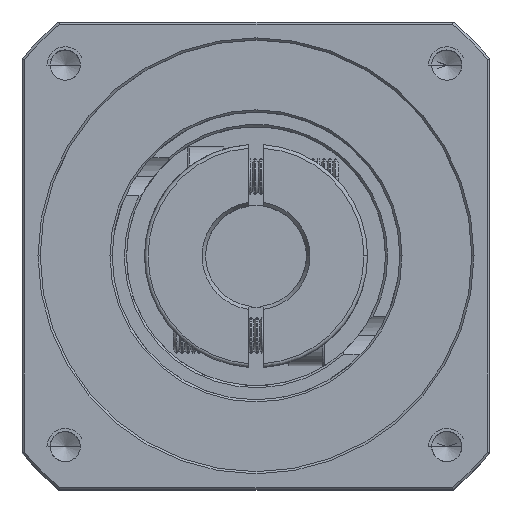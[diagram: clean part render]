
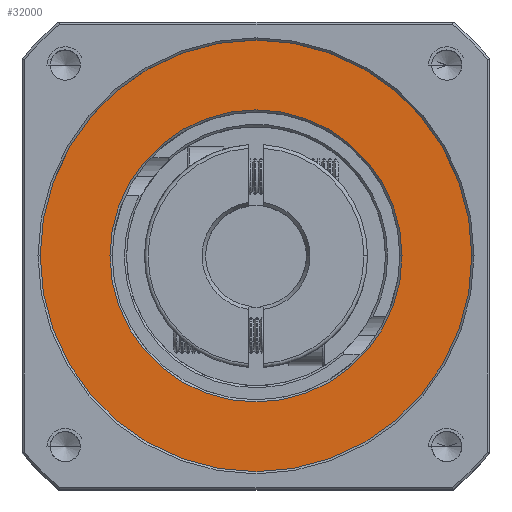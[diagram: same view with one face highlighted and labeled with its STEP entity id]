
A CAD part, top view. The second image highlights one B-rep face of the part: STEP entity #32000.
In plain terms, the highlighted planar face has unit normal (0, 0, 1).
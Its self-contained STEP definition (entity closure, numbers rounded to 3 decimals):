
#2665 = FACE_BOUND ( 'NONE', #80899, .T. ) ;
#2905 = CIRCLE ( 'NONE', #58507, 30. ) ;
#11027 = ORIENTED_EDGE ( 'NONE', *, *, #66837, .T. ) ;
#12219 = VERTEX_POINT ( 'NONE', #68164 ) ;
#16950 = EDGE_LOOP ( 'NONE', ( #98855, #68991 ) ) ;
#20667 = EDGE_CURVE ( 'NONE', #92280, #45559, #89272, .T. ) ;
#21995 = CARTESIAN_POINT ( 'NONE',  ( -74.957, 22.264, 44.201 ) ) ;
#28349 = CARTESIAN_POINT ( 'NONE',  ( -74.957, 22.264, 44.201 ) ) ;
#29849 = DIRECTION ( 'NONE',  ( 1., 0., 0. ) ) ;
#31862 = AXIS2_PLACEMENT_3D ( 'NONE', #92093, #45040, #99988 ) ;
#32000 = ADVANCED_FACE ( 'NONE', ( #2665, #82748 ), #48615, .T. ) ;
#33185 = CARTESIAN_POINT ( 'NONE',  ( -74.957, 22.264, 44.201 ) ) ;
#36269 = DIRECTION ( 'NONE',  ( 1., 0., 0. ) ) ;
#37027 = CIRCLE ( 'NONE', #52634, 20.3 ) ;
#37331 = CARTESIAN_POINT ( 'NONE',  ( -74.957, 22.264, 44.201 ) ) ;
#38502 = CARTESIAN_POINT ( 'NONE',  ( -95.257, 22.264, 44.201 ) ) ;
#39538 = AXIS2_PLACEMENT_3D ( 'NONE', #33185, #88144, #41075 ) ;
#41075 = DIRECTION ( 'NONE',  ( 1., 0., 0. ) ) ;
#43844 = CARTESIAN_POINT ( 'NONE',  ( -44.957, 22.264, 44.201 ) ) ;
#45040 = DIRECTION ( 'NONE',  ( 0., 0., 1. ) ) ;
#45224 = DIRECTION ( 'NONE',  ( 1., 0., 0. ) ) ;
#45559 = VERTEX_POINT ( 'NONE', #38502 ) ;
#48615 = PLANE ( 'NONE',  #39538 ) ;
#52634 = AXIS2_PLACEMENT_3D ( 'NONE', #37331, #92295, #45224 ) ;
#53339 = CIRCLE ( 'NONE', #31862, 30. ) ;
#53757 = EDGE_CURVE ( 'NONE', #59978, #12219, #53339, .T. ) ;
#58507 = AXIS2_PLACEMENT_3D ( 'NONE', #21995, #76932, #29849 ) ;
#59900 = CARTESIAN_POINT ( 'NONE',  ( -54.657, 22.264, 44.201 ) ) ;
#59978 = VERTEX_POINT ( 'NONE', #43844 ) ;
#66837 = EDGE_CURVE ( 'NONE', #45559, #92280, #37027, .T. ) ;
#68164 = CARTESIAN_POINT ( 'NONE',  ( -104.957, 22.264, 44.201 ) ) ;
#68991 = ORIENTED_EDGE ( 'NONE', *, *, #76588, .T. ) ;
#76588 = EDGE_CURVE ( 'NONE', #12219, #59978, #2905, .T. ) ;
#76932 = DIRECTION ( 'NONE',  ( 0., 0., 1. ) ) ;
#80899 = EDGE_LOOP ( 'NONE', ( #97788, #11027 ) ) ;
#82748 = FACE_OUTER_BOUND ( 'NONE', #16950, .T. ) ;
#83305 = DIRECTION ( 'NONE',  ( 0., 0., -1. ) ) ;
#88144 = DIRECTION ( 'NONE',  ( 0., 0., 1. ) ) ;
#88683 = AXIS2_PLACEMENT_3D ( 'NONE', #28349, #83305, #36269 ) ;
#89272 = CIRCLE ( 'NONE', #88683, 20.3 ) ;
#92093 = CARTESIAN_POINT ( 'NONE',  ( -74.957, 22.264, 44.201 ) ) ;
#92280 = VERTEX_POINT ( 'NONE', #59900 ) ;
#92295 = DIRECTION ( 'NONE',  ( 0., 0., -1. ) ) ;
#97788 = ORIENTED_EDGE ( 'NONE', *, *, #20667, .T. ) ;
#98855 = ORIENTED_EDGE ( 'NONE', *, *, #53757, .T. ) ;
#99988 = DIRECTION ( 'NONE',  ( 1., 0., 0. ) ) ;
